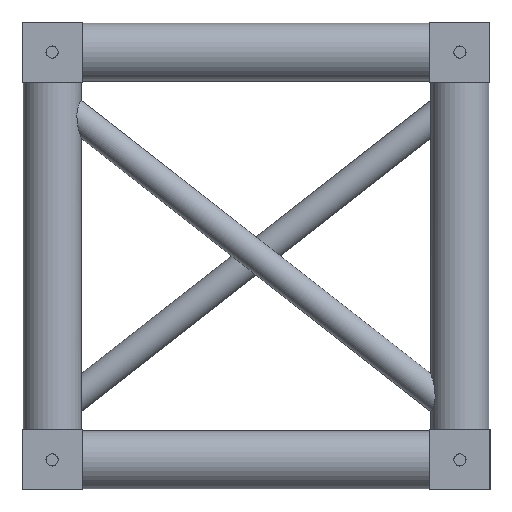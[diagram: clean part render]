
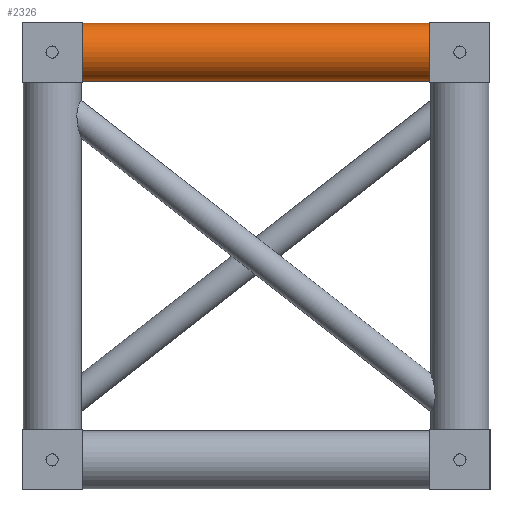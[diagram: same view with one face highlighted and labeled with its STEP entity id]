
A CAD part, front view. The second image highlights one B-rep face of the part: STEP entity #2326.
In plain terms, the highlighted cylindrical face has radius 24.15 mm (diameter 48.3 mm), a full revolution.
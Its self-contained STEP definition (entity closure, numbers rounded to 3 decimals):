
#208=ELLIPSE('',#2466,39.226,24.15);
#395=FACE_BOUND('',#683,.T.);
#396=FACE_BOUND('',#684,.T.);
#529=FACE_OUTER_BOUND('',#682,.T.);
#682=EDGE_LOOP('',(#1562));
#683=EDGE_LOOP('',(#1563,#1564));
#684=EDGE_LOOP('',(#1565));
#938=CIRCLE('',#2491,24.15);
#939=CIRCLE('',#2492,24.15);
#1008=B_SPLINE_CURVE_WITH_KNOTS('',3,(#3730,#3731,#3732,#3733,#3734,#3735,
#3736,#3737,#3738,#3739,#3740,#3741,#3742,#3743,#3744,#3745,#3746,#3747,
#3748,#3749,#3750,#3751,#3752,#3753,#3754,#3755,#3756,#3757,#3758,#3759,
#3760,#3761,#3762,#3763,#3764,#3765,#3766,#3767,#3768,#3769,#3770,#3771,
#3772,#3773,#3774,#3775,#3776),.UNSPECIFIED.,.F.,.F.,(4,2,2,2,2,2,2,2,2,
2,2,2,2,2,2,2,3,2,2,2,2,2,4),(2.086,2.469,2.937,
3.204,3.47,3.737,4.004,4.644,
5.284,5.838,6.115,6.392,6.668,
6.945,7.499,8.139,8.78,9.046,
9.313,9.58,9.846,10.314,10.698),
 .UNSPECIFIED.);
#1022=VERTEX_POINT('',#3728);
#1023=VERTEX_POINT('',#3729);
#1040=VERTEX_POINT('',#4147);
#1041=VERTEX_POINT('',#4149);
#1242=EDGE_CURVE('',#1022,#1023,#1008,.T.);
#1245=EDGE_CURVE('',#1023,#1022,#208,.T.);
#1264=EDGE_CURVE('',#1040,#1040,#938,.T.);
#1265=EDGE_CURVE('',#1041,#1041,#939,.T.);
#1562=ORIENTED_EDGE('',*,*,#1264,.F.);
#1563=ORIENTED_EDGE('',*,*,#1242,.T.);
#1564=ORIENTED_EDGE('',*,*,#1245,.T.);
#1565=ORIENTED_EDGE('',*,*,#1265,.F.);
#2105=CYLINDRICAL_SURFACE('',#2490,24.15);
#2326=ADVANCED_FACE('',(#529,#395,#396),#2105,.T.);
#2466=AXIS2_PLACEMENT_3D('',#3827,#2803,#2804);
#2490=AXIS2_PLACEMENT_3D('',#4146,#2851,#2852);
#2491=AXIS2_PLACEMENT_3D('',#4148,#2853,#2854);
#2492=AXIS2_PLACEMENT_3D('',#4150,#2855,#2856);
#2803=DIRECTION('center_axis',(-0.616,-0.788,0.));
#2804=DIRECTION('ref_axis',(-0.788,0.616,0.));
#2851=DIRECTION('center_axis',(-1.,0.,0.));
#2852=DIRECTION('ref_axis',(0.,0.936,0.351));
#2853=DIRECTION('center_axis',(-1.,0.,0.));
#2854=DIRECTION('ref_axis',(0.,0.936,0.351));
#2855=DIRECTION('center_axis',(1.,0.,0.));
#2856=DIRECTION('ref_axis',(0.,0.936,0.351));
#3728=CARTESIAN_POINT('',(40.101,-314.865,-0.846));
#3729=CARTESIAN_POINT('',(40.101,-314.865,0.846));
#3730=CARTESIAN_POINT('Ctrl Pts',(40.101,-314.865,-0.846));
#3731=CARTESIAN_POINT('Ctrl Pts',(40.178,-314.911,-2.15));
#3732=CARTESIAN_POINT('Ctrl Pts',(40.44,-315.07,-3.494));
#3733=CARTESIAN_POINT('Ctrl Pts',(41.452,-315.627,-6.272));
#3734=CARTESIAN_POINT('Ctrl Pts',(42.304,-316.068,-7.662));
#3735=CARTESIAN_POINT('Ctrl Pts',(43.918,-316.734,-9.376));
#3736=CARTESIAN_POINT('Ctrl Pts',(44.594,-316.986,-9.944));
#3737=CARTESIAN_POINT('Ctrl Pts',(46.094,-317.45,-10.914));
#3738=CARTESIAN_POINT('Ctrl Pts',(46.918,-317.662,-11.316));
#3739=CARTESIAN_POINT('Ctrl Pts',(48.651,-318.004,-11.938));
#3740=CARTESIAN_POINT('Ctrl Pts',(49.564,-318.134,-12.16));
#3741=CARTESIAN_POINT('Ctrl Pts',(51.401,-318.3,-12.44));
#3742=CARTESIAN_POINT('Ctrl Pts',(52.326,-318.337,-12.5));
#3743=CARTESIAN_POINT('Ctrl Pts',(55.35,-318.337,-12.5));
#3744=CARTESIAN_POINT('Ctrl Pts',(57.631,-318.119,-12.154));
#3745=CARTESIAN_POINT('Ctrl Pts',(61.997,-317.429,-10.884));
#3746=CARTESIAN_POINT('Ctrl Pts',(64.082,-316.966,-9.958));
#3747=CARTESIAN_POINT('Ctrl Pts',(67.371,-316.145,-7.872));
#3748=CARTESIAN_POINT('Ctrl Pts',(68.888,-315.72,-6.606));
#3749=CARTESIAN_POINT('Ctrl Pts',(70.55,-315.232,-4.347));
#3750=CARTESIAN_POINT('Ctrl Pts',(71.004,-315.095,-3.535));
#3751=CARTESIAN_POINT('Ctrl Pts',(71.63,-314.903,-1.822));
#3752=CARTESIAN_POINT('Ctrl Pts',(71.802,-314.85,-0.923));
#3753=CARTESIAN_POINT('Ctrl Pts',(71.802,-314.85,0.923));
#3754=CARTESIAN_POINT('Ctrl Pts',(71.63,-314.903,1.822));
#3755=CARTESIAN_POINT('Ctrl Pts',(71.004,-315.095,3.535));
#3756=CARTESIAN_POINT('Ctrl Pts',(70.55,-315.232,4.347));
#3757=CARTESIAN_POINT('Ctrl Pts',(68.888,-315.72,6.606));
#3758=CARTESIAN_POINT('Ctrl Pts',(67.371,-316.145,7.872));
#3759=CARTESIAN_POINT('Ctrl Pts',(64.082,-316.966,9.958));
#3760=CARTESIAN_POINT('Ctrl Pts',(61.997,-317.429,10.884));
#3761=CARTESIAN_POINT('Ctrl Pts',(57.631,-318.119,12.154));
#3762=CARTESIAN_POINT('Ctrl Pts',(55.35,-318.337,12.5));
#3763=CARTESIAN_POINT('Ctrl Pts',(53.215,-318.337,12.5));
#3764=CARTESIAN_POINT('Ctrl Pts',(52.326,-318.337,12.5));
#3765=CARTESIAN_POINT('Ctrl Pts',(51.401,-318.3,12.44));
#3766=CARTESIAN_POINT('Ctrl Pts',(49.564,-318.134,12.16));
#3767=CARTESIAN_POINT('Ctrl Pts',(48.651,-318.004,11.938));
#3768=CARTESIAN_POINT('Ctrl Pts',(46.918,-317.662,11.316));
#3769=CARTESIAN_POINT('Ctrl Pts',(46.094,-317.45,10.914));
#3770=CARTESIAN_POINT('Ctrl Pts',(44.594,-316.986,9.944));
#3771=CARTESIAN_POINT('Ctrl Pts',(43.918,-316.734,9.376));
#3772=CARTESIAN_POINT('Ctrl Pts',(42.304,-316.068,7.662));
#3773=CARTESIAN_POINT('Ctrl Pts',(41.452,-315.627,6.272));
#3774=CARTESIAN_POINT('Ctrl Pts',(40.44,-315.07,3.494));
#3775=CARTESIAN_POINT('Ctrl Pts',(40.178,-314.911,2.15));
#3776=CARTESIAN_POINT('Ctrl Pts',(40.101,-314.865,0.846));
#3827=CARTESIAN_POINT('Origin',(70.993,-339.,0.));
#4146=CARTESIAN_POINT('Origin',(314.,-339.,0.));
#4147=CARTESIAN_POINT('',(25.,-361.616,-8.471));
#4148=CARTESIAN_POINT('Origin',(25.,-339.,0.));
#4149=CARTESIAN_POINT('',(314.,-361.616,-8.471));
#4150=CARTESIAN_POINT('Origin',(314.,-339.,0.));
